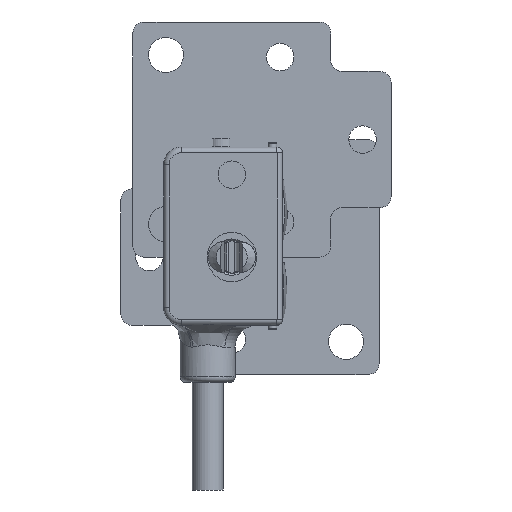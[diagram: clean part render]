
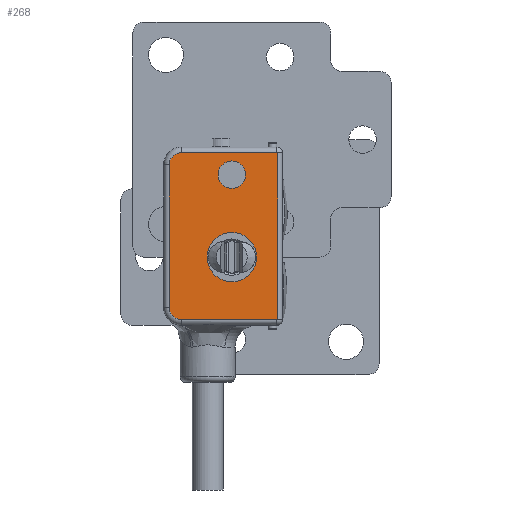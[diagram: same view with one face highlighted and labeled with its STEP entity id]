
A CAD part, front view. The second image highlights one B-rep face of the part: STEP entity #268.
In plain terms, the highlighted planar face has unit normal (0, -1, 0).
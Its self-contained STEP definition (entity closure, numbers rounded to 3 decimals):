
#268 = ADVANCED_FACE( '', ( #626, #627, #628 ), #629, .F. );
#626 = FACE_OUTER_BOUND( '', #1243, .T. );
#627 = FACE_BOUND( '', #1244, .T. );
#628 = FACE_BOUND( '', #1245, .T. );
#629 = PLANE( '', #1246 );
#1243 = EDGE_LOOP( '', ( #2068, #2069, #2070, #2071, #2072, #2073, #2074, #2075 ) );
#1244 = EDGE_LOOP( '', ( #2076 ) );
#1245 = EDGE_LOOP( '', ( #2077 ) );
#1246 = AXIS2_PLACEMENT_3D( '', #2078, #2079, #2080 );
#2068 = ORIENTED_EDGE( '', *, *, #3040, .T. );
#2069 = ORIENTED_EDGE( '', *, *, #3060, .T. );
#2070 = ORIENTED_EDGE( '', *, *, #3045, .T. );
#2071 = ORIENTED_EDGE( '', *, *, #3061, .T. );
#2072 = ORIENTED_EDGE( '', *, *, #3062, .T. );
#2073 = ORIENTED_EDGE( '', *, *, #3063, .F. );
#2074 = ORIENTED_EDGE( '', *, *, #3064, .F. );
#2075 = ORIENTED_EDGE( '', *, *, #3065, .F. );
#2076 = ORIENTED_EDGE( '', *, *, #2938, .F. );
#2077 = ORIENTED_EDGE( '', *, *, #3066, .T. );
#2078 = CARTESIAN_POINT( '', ( 4.6, -4., -6.2 ) );
#2079 = DIRECTION( '', ( 0., 1., 0. ) );
#2080 = DIRECTION( '', ( -1., 0., 0. ) );
#2938 = EDGE_CURVE( '', #3487, #3487, #3488, .F. );
#3040 = EDGE_CURVE( '', #3472, #3653, #3654, .T. );
#3045 = EDGE_CURVE( '', #3662, #3659, #3663, .T. );
#3060 = EDGE_CURVE( '', #3653, #3662, #3685, .T. );
#3061 = EDGE_CURVE( '', #3659, #3686, #3687, .T. );
#3062 = EDGE_CURVE( '', #3686, #3688, #3689, .F. );
#3063 = EDGE_CURVE( '', #3690, #3688, #3691, .T. );
#3064 = EDGE_CURVE( '', #3692, #3690, #3693, .T. );
#3065 = EDGE_CURVE( '', #3472, #3692, #3694, .T. );
#3066 = EDGE_CURVE( '', #3695, #3695, #3696, .T. );
#3472 = VERTEX_POINT( '', #4407 );
#3487 = VERTEX_POINT( '', #4425 );
#3488 = CIRCLE( '', #4426, 1.25 );
#3653 = VERTEX_POINT( '', #4721 );
#3654 = LINE( '', #4722, #4723 );
#3659 = VERTEX_POINT( '', #4729 );
#3662 = VERTEX_POINT( '', #4732 );
#3663 = LINE( '', #4733, #4734 );
#3685 = CIRCLE( '', #4762, 1.1 );
#3686 = VERTEX_POINT( '', #4763 );
#3687 = CIRCLE( '', #4764, 1.1 );
#3688 = VERTEX_POINT( '', #4765 );
#3689 = LINE( '', #4766, #4767 );
#3690 = VERTEX_POINT( '', #4768 );
#3691 = LINE( '', #4769, #4770 );
#3692 = VERTEX_POINT( '', #4771 );
#3693 = LINE( '', #4772, #4773 );
#3694 = LINE( '', #4774, #4775 );
#3695 = VERTEX_POINT( '', #4776 );
#3696 = CIRCLE( '', #4777, 2.25 );
#4407 = CARTESIAN_POINT( '', ( 4.1, -4., 9.5 ) );
#4425 = CARTESIAN_POINT( '', ( -1.25, -4., 7.5 ) );
#4426 = AXIS2_PLACEMENT_3D( '', #5365, #5366, #5367 );
#4721 = CARTESIAN_POINT( '', ( -4.6, -4., 9.5 ) );
#4722 = CARTESIAN_POINT( '', ( -4.6, -4., 9.5 ) );
#4723 = VECTOR( '', #5502, 1000. );
#4729 = CARTESIAN_POINT( '', ( -5.7, -4., -4.6 ) );
#4732 = CARTESIAN_POINT( '', ( -5.7, -4., 8.4 ) );
#4733 = CARTESIAN_POINT( '', ( -5.7, -4., -4.6 ) );
#4734 = VECTOR( '', #5510, 1000. );
#4762 = AXIS2_PLACEMENT_3D( '', #5529, #5530, #5531 );
#4763 = CARTESIAN_POINT( '', ( -4.6, -4., -5.7 ) );
#4764 = AXIS2_PLACEMENT_3D( '', #5532, #5533, #5534 );
#4765 = CARTESIAN_POINT( '', ( 4.1, -4., -5.7 ) );
#4766 = CARTESIAN_POINT( '', ( 4.6, -4., -5.7 ) );
#4767 = VECTOR( '', #5535, 1000. );
#4768 = CARTESIAN_POINT( '', ( 4.2, -4., -5.7 ) );
#4769 = CARTESIAN_POINT( '', ( 4.2, -4., -5.7 ) );
#4770 = VECTOR( '', #5536, 1000. );
#4771 = CARTESIAN_POINT( '', ( 4.2, -4., 9.5 ) );
#4772 = CARTESIAN_POINT( '', ( 4.2, -4., 9.5 ) );
#4773 = VECTOR( '', #5537, 1000. );
#4774 = CARTESIAN_POINT( '', ( -4.6, -4., 9.5 ) );
#4775 = VECTOR( '', #5538, 1000. );
#4776 = CARTESIAN_POINT( '', ( -2.25, -4., 0. ) );
#4777 = AXIS2_PLACEMENT_3D( '', #5539, #5540, #5541 );
#5365 = CARTESIAN_POINT( '', ( 0., -4., 7.5 ) );
#5366 = DIRECTION( '', ( 0., 1., 0. ) );
#5367 = DIRECTION( '', ( -1., 0., 0. ) );
#5502 = DIRECTION( '', ( -1., 0., 0. ) );
#5510 = DIRECTION( '', ( 0., 0., -1. ) );
#5529 = CARTESIAN_POINT( '', ( -4.6, -4., 8.4 ) );
#5530 = DIRECTION( '', ( 0., -1., 0. ) );
#5531 = DIRECTION( '', ( 0., 0., -1. ) );
#5532 = CARTESIAN_POINT( '', ( -4.6, -4., -4.6 ) );
#5533 = DIRECTION( '', ( 0., -1., 0. ) );
#5534 = DIRECTION( '', ( 0., 0., -1. ) );
#5535 = DIRECTION( '', ( -1., 0., 0. ) );
#5536 = DIRECTION( '', ( -1., 0., 0. ) );
#5537 = DIRECTION( '', ( 0., 0., -1. ) );
#5538 = DIRECTION( '', ( 1., 0., 0. ) );
#5539 = CARTESIAN_POINT( '', ( 0., -4., 0. ) );
#5540 = DIRECTION( '', ( 0., 1., 0. ) );
#5541 = DIRECTION( '', ( -1., 0., 0. ) );
